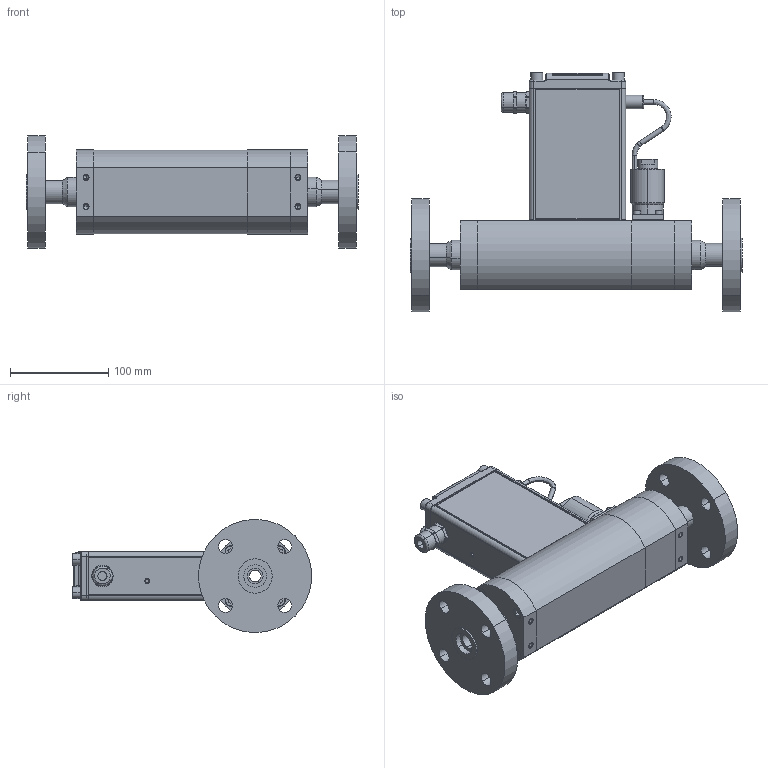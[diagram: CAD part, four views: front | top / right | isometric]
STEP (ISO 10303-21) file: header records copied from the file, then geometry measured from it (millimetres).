
FILE_DESCRIPTION (( 'STEP AP203' ), '1' );
FILE_NAME ('SLAMF53-S-3B-3-G-REVB.STEP', '2025-03-07T19:51:33', ( '' ), ( '' ), 'SwSTEP 2.0', 'SolidWorks 2023', '' );
FILE_SCHEMA (( 'CONFIG_CONTROL_DESIGN' ));
Length unit declared in the file: inch
Products named in the file (1): SLAMF53-S-3B-3-G-REVB
Bounding box: 337.4 x 242.91 x 114.59 mm (x, y, z)
Volume: 1552814 mm3; surface area: 395352.3 mm2
Topology: 37 solids, 37 shells, 1127 faces, 2636 edges, 1644 vertices
Faces by surface type: cylinder 468, plane 360, cone 247, bspline 52
Entity records: 33937 total; most frequent: CARTESIAN_POINT 7630, DIRECTION 5761, ORIENTED_EDGE 5176, EDGE_CURVE 2588, AXIS2_PLACEMENT_3D 2273, VERTEX_POINT 1644, EDGE_LOOP 1358, LINE 1215
